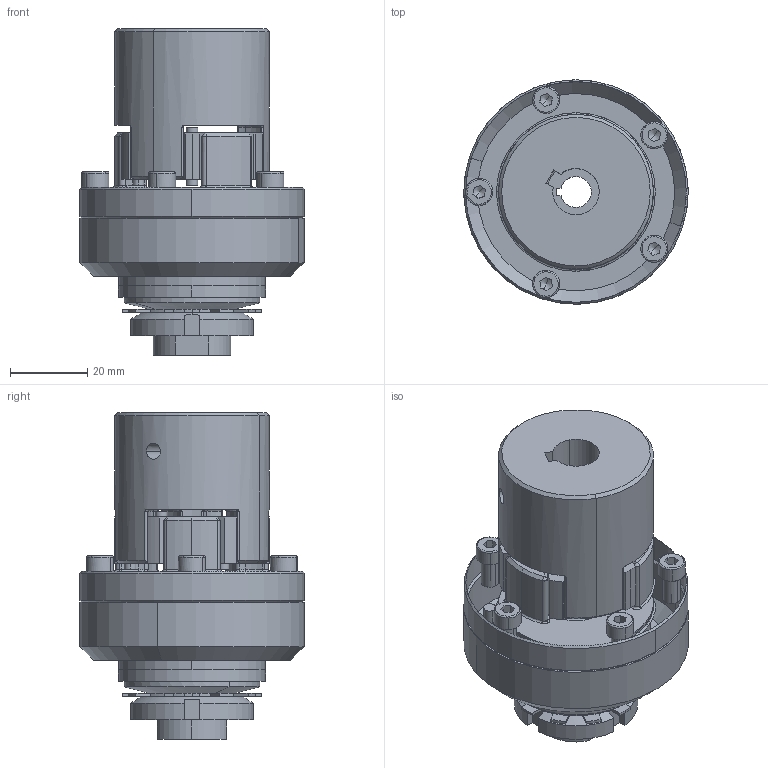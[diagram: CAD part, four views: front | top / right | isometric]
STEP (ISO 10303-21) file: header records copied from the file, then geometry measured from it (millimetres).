
FILE_DESCRIPTION(('STEP AP214'),'1');
FILE_NAME('00_38_df_d8_con_cava_t1___gas_d12_bloccagio_a1__98_sh-a.stp','2020-09-09T09:22:24',('TraceParts'),('TraceParts S.A.'),'Spatial InterOp 3D',' ',' ');
FILE_SCHEMA(('AUTOMOTIVE_DESIGN { 1 0 10303 214 1 1 1 1 }'));
Length unit declared in the file: millimetre
Products named in the file (1): 00_38_df_d8_con_cava_t1___gas_d12_bloccagio_a1__98_sh-a
Bounding box: 58 x 58 x 84.5 mm (x, y, z)
Volume: 105066 mm3; surface area: 35164.1 mm2
Topology: 12 solids, 12 shells, 580 faces, 1588 edges, 1027 vertices
Faces by surface type: cylinder 255, plane 155, torus 90, cone 80
Entity records: 24255 total; most frequent: CARTESIAN_POINT 4346, DIRECTION 3425, ORIENTED_EDGE 3156, EDGE_CURVE 1578, AXIS2_PLACEMENT_3D 1422, VERTEX_POINT 1027, CIRCLE 835, EDGE_LOOP 627
